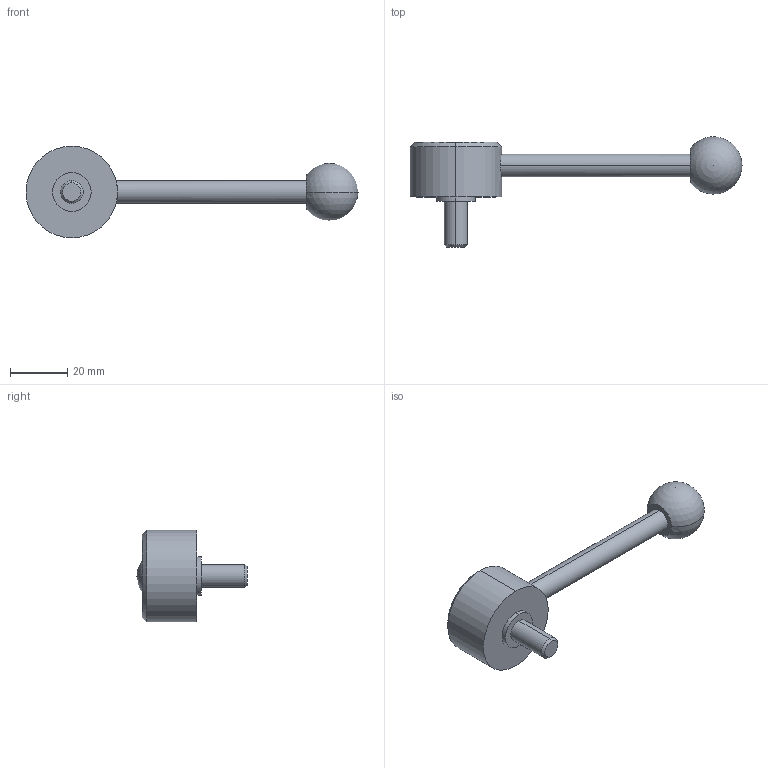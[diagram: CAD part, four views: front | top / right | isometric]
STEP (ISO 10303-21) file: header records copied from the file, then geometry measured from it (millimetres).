
FILE_DESCRIPTION (( 'STEP AP214' ), '1' );
FILE_NAME ('125.5-32-M8-16-D.step', '2020-02-18T11:25:37', ( '' ), ( '' ), 'SwSTEP 2.0', 'SolidWorks 2019', '' );
FILE_SCHEMA (( 'AUTOMOTIVE_DESIGN' ));
Length unit declared in the file: millimetre
Products named in the file (1): 125.5-32-M8-16-D
Bounding box: 116 x 38.47 x 32 mm (x, y, z)
Volume: 23654.4 mm3; surface area: 6699.5 mm2
Topology: 1 solids, 1 shells, 22 faces, 47 edges, 30 vertices
Faces by surface type: cylinder 10, plane 6, cone 4, sphere 2
Entity records: 730 total; most frequent: CARTESIAN_POINT 158, DIRECTION 112, ORIENTED_EDGE 84, AXIS2_PLACEMENT_3D 49, EDGE_CURVE 42, VERTEX_POINT 27, EDGE_LOOP 27, CIRCLE 26
